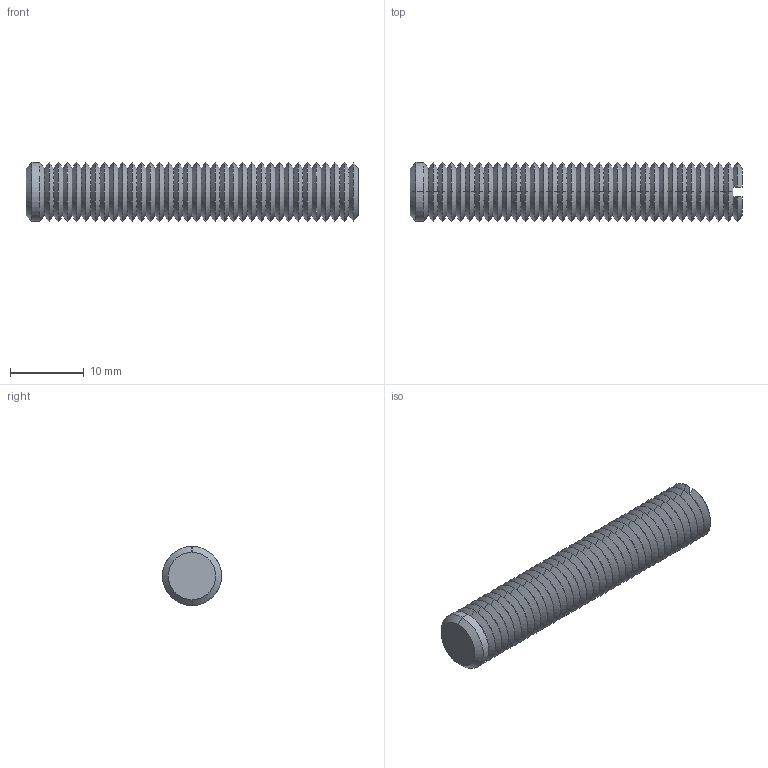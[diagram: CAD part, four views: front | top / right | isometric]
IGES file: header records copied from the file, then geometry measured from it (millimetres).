
Start section: SolidWorks IGES file using analytic representation for surfaces
Global section: file name: C:\Documents and Settings\IANO\Desktop\Temp File\Process pending\EXISTING\34300_v2\34300_v2_20170622_IGES\34300.W0084.igs; native system: SolidWorks 2009; preprocessor: SolidWorks 2009; author: IANO; date: 170622.093813; units: millimetre
Bounding box: 45 x 8 x 8 mm (x, y, z)
Surface area: 1695 mm2 (no closed solid volume)
Topology: 0 solids, 0 shells, 148 faces, 656 edges, 656 vertices
Faces by surface type: revolution 142, bspline 6
